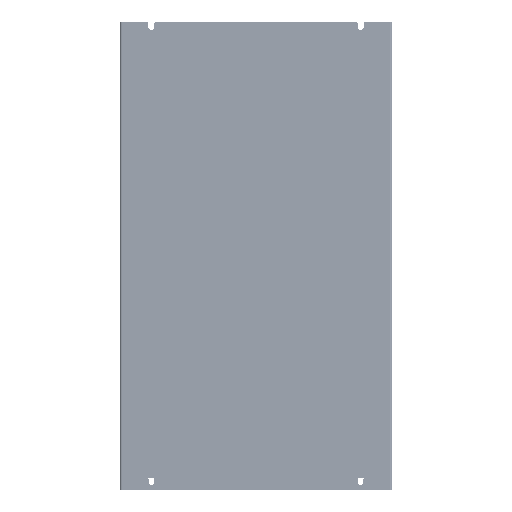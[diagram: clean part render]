
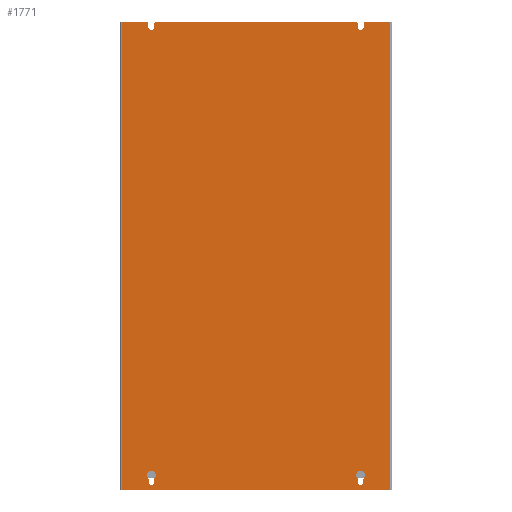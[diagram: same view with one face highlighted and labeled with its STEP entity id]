
A CAD part, front view. The second image highlights one B-rep face of the part: STEP entity #1771.
In plain terms, the highlighted planar face has unit normal (0, -1, 0).
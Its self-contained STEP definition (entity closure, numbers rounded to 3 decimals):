
#80=DIRECTION('',(0.707,0.,0.707));
#81=VECTOR('',#80,2.828);
#82=CARTESIAN_POINT('',(218.5,0.,573.));
#83=LINE('',#82,#81);
#84=DIRECTION('',(1.,0.,0.));
#85=VECTOR('',#84,409.);
#86=CARTESIAN_POINT('',(-204.5,0.,575.));
#87=LINE('',#86,#85);
#100=DIRECTION('',(1.,0.,0.));
#101=VECTOR('',#100,51.25);
#102=CARTESIAN_POINT('',(220.5,0.,575.));
#103=LINE('',#102,#101);
#104=DIRECTION('',(1.,0.,0.));
#105=VECTOR('',#104,51.25);
#106=CARTESIAN_POINT('',(-271.75,0.,575.));
#107=LINE('',#106,#105);
#124=DIRECTION('',(0.707,0.,-0.707));
#125=VECTOR('',#124,2.828);
#126=CARTESIAN_POINT('',(204.5,0.,575.));
#127=LINE('',#126,#125);
#132=CARTESIAN_POINT('',(212.5,0.,565.));
#133=DIRECTION('',(0.,1.,0.));
#134=DIRECTION('',(1.,0.,0.));
#135=AXIS2_PLACEMENT_3D('',#132,#133,#134);
#137=DIRECTION('',(0.,0.,-1.));
#138=VECTOR('',#137,8.);
#139=CARTESIAN_POINT('',(218.5,0.,573.));
#140=LINE('',#139,#138);
#141=DIRECTION('',(0.,0.,-1.));
#142=VECTOR('',#141,8.);
#143=CARTESIAN_POINT('',(-218.5,0.,573.));
#144=LINE('',#143,#142);
#145=CARTESIAN_POINT('',(-212.5,0.,565.));
#146=DIRECTION('',(0.,1.,0.));
#147=DIRECTION('',(1.,0.,0.));
#148=AXIS2_PLACEMENT_3D('',#145,#146,#147);
#150=DIRECTION('',(0.,0.,-1.));
#151=VECTOR('',#150,8.);
#152=CARTESIAN_POINT('',(-206.5,0.,573.));
#153=LINE('',#152,#151);
#154=DIRECTION('',(0.,0.,-1.));
#155=VECTOR('',#154,8.);
#156=CARTESIAN_POINT('',(206.5,0.,573.));
#157=LINE('',#156,#155);
#158=CARTESIAN_POINT('',(-212.5,0.,-360.));
#159=DIRECTION('',(0.,1.,0.));
#160=DIRECTION('',(1.,0.,0.));
#161=AXIS2_PLACEMENT_3D('',#158,#159,#160);
#163=DIRECTION('',(0.,0.,1.));
#164=VECTOR('',#163,7.517);
#165=CARTESIAN_POINT('',(-207.5,0.,-360.));
#166=LINE('',#165,#164);
#167=CARTESIAN_POINT('',(-212.5,0.,-345.));
#168=DIRECTION('',(0.,1.,0.));
#169=DIRECTION('',(-0.556,0.,-0.831));
#170=AXIS2_PLACEMENT_3D('',#167,#168,#169);
#172=DIRECTION('',(0.,0.,-1.));
#173=VECTOR('',#172,7.517);
#174=CARTESIAN_POINT('',(-217.5,0.,-352.483));
#175=LINE('',#174,#173);
#176=CARTESIAN_POINT('',(212.5,0.,-360.));
#177=DIRECTION('',(0.,1.,0.));
#178=DIRECTION('',(1.,0.,0.));
#179=AXIS2_PLACEMENT_3D('',#176,#177,#178);
#181=DIRECTION('',(0.,0.,1.));
#182=VECTOR('',#181,7.517);
#183=CARTESIAN_POINT('',(217.5,0.,-360.));
#184=LINE('',#183,#182);
#185=CARTESIAN_POINT('',(212.5,0.,-345.));
#186=DIRECTION('',(0.,1.,0.));
#187=DIRECTION('',(-0.556,0.,-0.831));
#188=AXIS2_PLACEMENT_3D('',#185,#186,#187);
#190=DIRECTION('',(0.,0.,-1.));
#191=VECTOR('',#190,7.517);
#192=CARTESIAN_POINT('',(207.5,0.,-352.483));
#193=LINE('',#192,#191);
#206=DIRECTION('',(0.,0.,-1.));
#207=VECTOR('',#206,950.);
#208=CARTESIAN_POINT('',(271.75,0.,575.));
#209=LINE('',#208,#207);
#648=DIRECTION('',(1.,0.,0.));
#649=VECTOR('',#648,543.5);
#650=CARTESIAN_POINT('',(-271.75,0.,-375.));
#651=LINE('',#650,#649);
#1010=DIRECTION('',(0.,0.,-1.));
#1011=VECTOR('',#1010,950.);
#1012=CARTESIAN_POINT('',(-271.75,0.,575.));
#1013=LINE('',#1012,#1011);
#1158=DIRECTION('',(0.707,0.,-0.707));
#1159=VECTOR('',#1158,2.828);
#1160=CARTESIAN_POINT('',(-220.5,0.,575.));
#1161=LINE('',#1160,#1159);
#1182=DIRECTION('',(0.707,0.,0.707));
#1183=VECTOR('',#1182,2.828);
#1184=CARTESIAN_POINT('',(-206.5,0.,573.));
#1185=LINE('',#1184,#1183);
#1222=CARTESIAN_POINT('',(-271.75,0.,-375.));
#1223=CARTESIAN_POINT('',(271.75,0.,-375.));
#1224=VERTEX_POINT('',#1222);
#1225=VERTEX_POINT('',#1223);
#1286=CARTESIAN_POINT('',(-206.5,0.,565.));
#1287=CARTESIAN_POINT('',(-218.5,0.,565.));
#1288=VERTEX_POINT('',#1286);
#1289=VERTEX_POINT('',#1287);
#1294=CARTESIAN_POINT('',(218.5,0.,565.));
#1295=CARTESIAN_POINT('',(206.5,0.,565.));
#1296=VERTEX_POINT('',#1294);
#1297=VERTEX_POINT('',#1295);
#1299=CARTESIAN_POINT('',(218.5,0.,573.));
#1301=VERTEX_POINT('',#1299);
#1303=CARTESIAN_POINT('',(220.5,0.,575.));
#1305=VERTEX_POINT('',#1303);
#1307=CARTESIAN_POINT('',(204.5,0.,575.));
#1309=VERTEX_POINT('',#1307);
#1311=CARTESIAN_POINT('',(206.5,0.,573.));
#1313=VERTEX_POINT('',#1311);
#1315=CARTESIAN_POINT('',(-220.5,0.,575.));
#1317=VERTEX_POINT('',#1315);
#1319=CARTESIAN_POINT('',(-218.5,0.,573.));
#1321=VERTEX_POINT('',#1319);
#1323=CARTESIAN_POINT('',(-206.5,0.,573.));
#1325=VERTEX_POINT('',#1323);
#1327=CARTESIAN_POINT('',(-204.5,0.,575.));
#1329=VERTEX_POINT('',#1327);
#1332=CARTESIAN_POINT('',(271.75,0.,575.));
#1333=VERTEX_POINT('',#1332);
#1336=CARTESIAN_POINT('',(-271.75,0.,575.));
#1337=VERTEX_POINT('',#1336);
#1362=CARTESIAN_POINT('',(-207.5,0.,-360.));
#1363=CARTESIAN_POINT('',(-217.5,0.,-360.));
#1364=VERTEX_POINT('',#1362);
#1365=VERTEX_POINT('',#1363);
#1366=CARTESIAN_POINT('',(-207.5,0.,-352.483));
#1367=VERTEX_POINT('',#1366);
#1368=CARTESIAN_POINT('',(-217.5,0.,-352.483));
#1369=VERTEX_POINT('',#1368);
#1378=CARTESIAN_POINT('',(217.5,0.,-360.));
#1379=CARTESIAN_POINT('',(207.5,0.,-360.));
#1380=VERTEX_POINT('',#1378);
#1381=VERTEX_POINT('',#1379);
#1382=CARTESIAN_POINT('',(217.5,0.,-352.483));
#1383=VERTEX_POINT('',#1382);
#1384=CARTESIAN_POINT('',(207.5,0.,-352.483));
#1385=VERTEX_POINT('',#1384);
#1720=CARTESIAN_POINT('',(-274.25,0.,575.));
#1721=DIRECTION('',(0.,-1.,0.));
#1722=DIRECTION('',(1.,0.,0.));
#1723=AXIS2_PLACEMENT_3D('',#1720,#1721,#1722);
#1724=PLANE('',#1723);
#1725=ORIENTED_EDGE('',*,*,#1614,.F.);
#1726=ORIENTED_EDGE('',*,*,#1629,.F.);
#1727=ORIENTED_EDGE('',*,*,#1644,.T.);
#1728=ORIENTED_EDGE('',*,*,#1673,.T.);
#1730=ORIENTED_EDGE('',*,*,#1729,.T.);
#1732=ORIENTED_EDGE('',*,*,#1731,.F.);
#1734=ORIENTED_EDGE('',*,*,#1733,.F.);
#1735=ORIENTED_EDGE('',*,*,#1685,.T.);
#1737=ORIENTED_EDGE('',*,*,#1736,.T.);
#1739=ORIENTED_EDGE('',*,*,#1738,.T.);
#1741=ORIENTED_EDGE('',*,*,#1740,.F.);
#1743=ORIENTED_EDGE('',*,*,#1742,.F.);
#1745=ORIENTED_EDGE('',*,*,#1744,.T.);
#1746=ORIENTED_EDGE('',*,*,#1656,.T.);
#1747=ORIENTED_EDGE('',*,*,#1702,.T.);
#1748=ORIENTED_EDGE('',*,*,#1714,.T.);
#1749=EDGE_LOOP('',(#1725,#1726,#1727,#1728,#1730,#1732,#1734,#1735,#1737,#1739,
#1741,#1743,#1745,#1746,#1747,#1748));
#1750=FACE_OUTER_BOUND('',#1749,.F.);
#1752=ORIENTED_EDGE('',*,*,#1751,.F.);
#1754=ORIENTED_EDGE('',*,*,#1753,.T.);
#1756=ORIENTED_EDGE('',*,*,#1755,.F.);
#1758=ORIENTED_EDGE('',*,*,#1757,.T.);
#1759=EDGE_LOOP('',(#1752,#1754,#1756,#1758));
#1760=FACE_BOUND('',#1759,.F.);
#1762=ORIENTED_EDGE('',*,*,#1761,.F.);
#1764=ORIENTED_EDGE('',*,*,#1763,.T.);
#1766=ORIENTED_EDGE('',*,*,#1765,.F.);
#1768=ORIENTED_EDGE('',*,*,#1767,.T.);
#1769=EDGE_LOOP('',(#1762,#1764,#1766,#1768));
#1770=FACE_BOUND('',#1769,.F.);
#1771=ADVANCED_FACE('',(#1750,#1760,#1770),#1724,.T.);
#136=CIRCLE('',#135,6.);
#149=CIRCLE('',#148,6.);
#162=CIRCLE('',#161,5.);
#171=CIRCLE('',#170,9.);
#180=CIRCLE('',#179,5.);
#189=CIRCLE('',#188,9.);
#1614=EDGE_CURVE('',#1296,#1297,#136,.T.);
#1629=EDGE_CURVE('',#1301,#1296,#140,.T.);
#1644=EDGE_CURVE('',#1301,#1305,#83,.T.);
#1656=EDGE_CURVE('',#1329,#1309,#87,.T.);
#1673=EDGE_CURVE('',#1305,#1333,#103,.T.);
#1685=EDGE_CURVE('',#1337,#1317,#107,.T.);
#1702=EDGE_CURVE('',#1309,#1313,#127,.T.);
#1714=EDGE_CURVE('',#1313,#1297,#157,.T.);
#1729=EDGE_CURVE('',#1333,#1225,#209,.T.);
#1731=EDGE_CURVE('',#1224,#1225,#651,.T.);
#1733=EDGE_CURVE('',#1337,#1224,#1013,.T.);
#1736=EDGE_CURVE('',#1317,#1321,#1161,.T.);
#1738=EDGE_CURVE('',#1321,#1289,#144,.T.);
#1740=EDGE_CURVE('',#1288,#1289,#149,.T.);
#1742=EDGE_CURVE('',#1325,#1288,#153,.T.);
#1744=EDGE_CURVE('',#1325,#1329,#1185,.T.);
#1751=EDGE_CURVE('',#1364,#1365,#162,.T.);
#1753=EDGE_CURVE('',#1364,#1367,#166,.T.);
#1755=EDGE_CURVE('',#1369,#1367,#171,.T.);
#1757=EDGE_CURVE('',#1369,#1365,#175,.T.);
#1761=EDGE_CURVE('',#1380,#1381,#180,.T.);
#1763=EDGE_CURVE('',#1380,#1383,#184,.T.);
#1765=EDGE_CURVE('',#1385,#1383,#189,.T.);
#1767=EDGE_CURVE('',#1385,#1381,#193,.T.);
